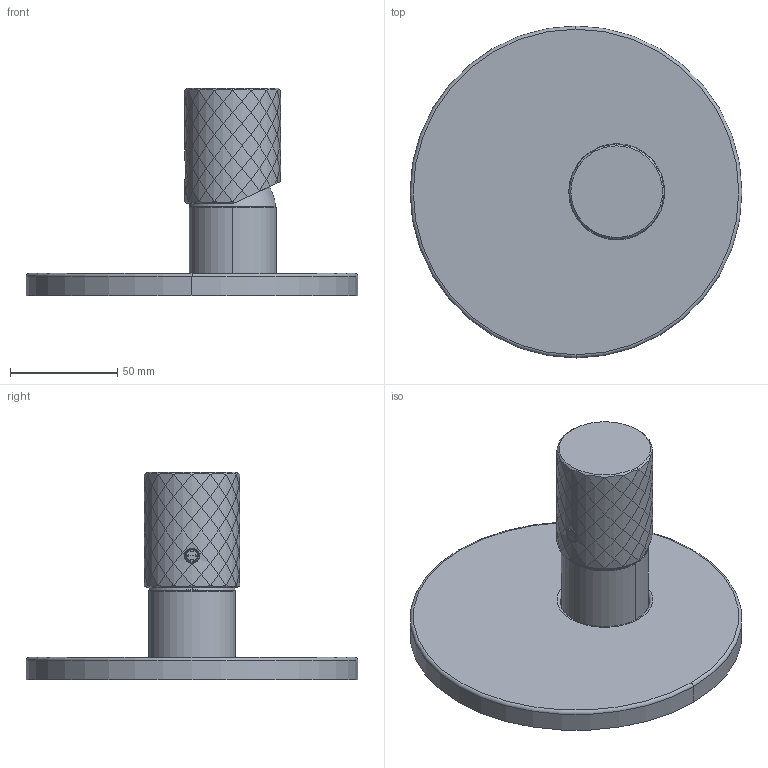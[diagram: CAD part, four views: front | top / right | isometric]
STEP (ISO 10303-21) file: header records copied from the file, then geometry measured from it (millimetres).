
FILE_DESCRIPTION((''),'2;1');
FILE_NAME('F3039X1X_FILE_3D','2019-02-26T',('ivanv'),(''),'CREO PARAMETRIC BY PTC INC, 2016260','CREO PARAMETRIC BY PTC INC, 2016260','');
FILE_SCHEMA(('CONFIG_CONTROL_DESIGN'));
Products named in the file (1): F3039X1X_FILE_3D
Bounding box: 155 x 155 x 97 mm (x, y, z)
Volume: 60992.4 mm3; surface area: 79895 mm2
Topology: 3 solids, 3 shells, 690 faces, 1928 edges, 1254 vertices
Faces by surface type: plane 322, cylinder 263, cone 46, bspline 31, torus 26, sphere 2
Entity records: 39595 total; most frequent: CARTESIAN_POINT 23197, ORIENTED_EDGE 3848, DIRECTION 2727, EDGE_CURVE 1924, VERTEX_POINT 1254, VECTOR 983, LINE 983, AXIS2_PLACEMENT_3D 872
